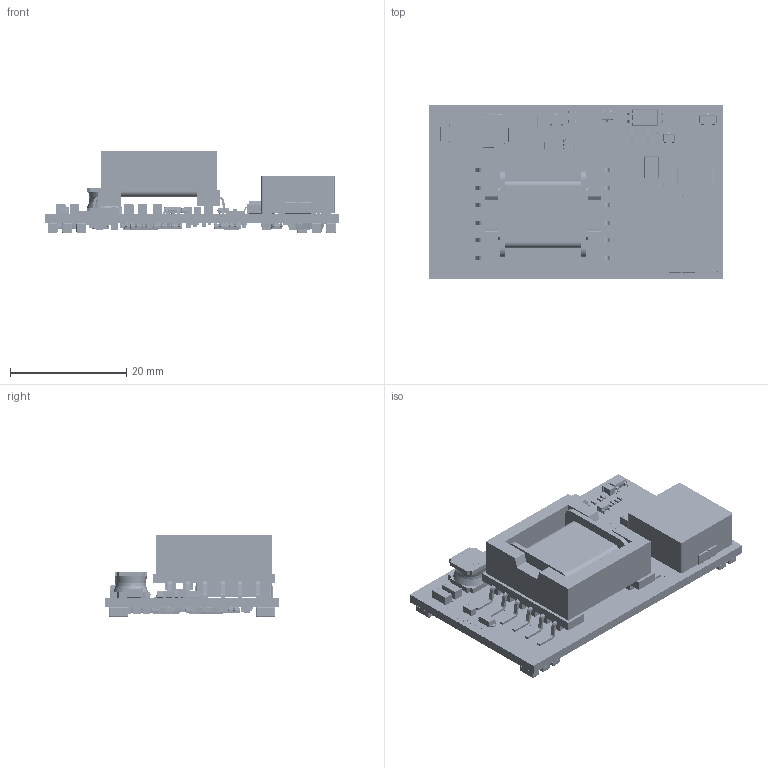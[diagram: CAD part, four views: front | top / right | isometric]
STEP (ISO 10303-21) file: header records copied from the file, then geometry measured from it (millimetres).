
FILE_DESCRIPTION(('FreeCAD Model'),'2;1');
FILE_NAME('Open CASCADE Shape Model','2025-09-18T10:26:06',(''),(''), 'Open CASCADE STEP processor 7.6','FreeCAD','Unknown');
FILE_SCHEMA(('AUTOMOTIVE_DESIGN { 1 0 10303 214 1 1 1 1 }'));
Products named in the file (1): Ag59800_Detailed
Bounding box: 50.62 x 30 x 14.11 mm (x, y, z)
Surface area: 15828.2 mm2 (no closed solid volume)
Topology: 0 solids, 10404 shells, 10404 faces, 53990 edges, 53982 vertices
Faces by surface type: extrusion 6381, revolution 3129, bspline 894
Entity records: 670798 total; most frequent: CARTESIAN_POINT 132974, DIRECTION 82655, VECTOR 54652, ORIENTED_EDGE 53982, EDGE_CURVE 53982, VERTEX_POINT 53982, LINE 48271, AXIS2_PLACEMENT_3D 12437
